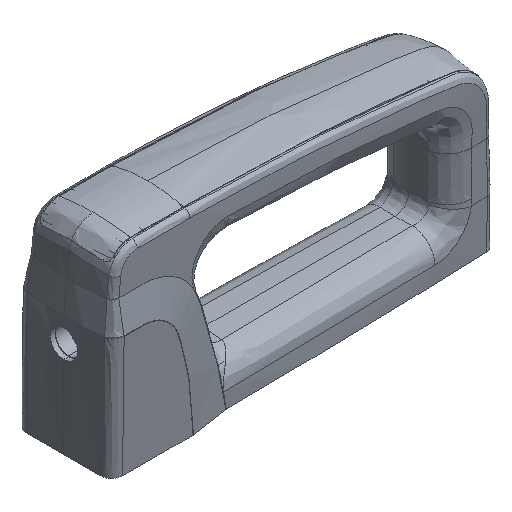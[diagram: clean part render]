
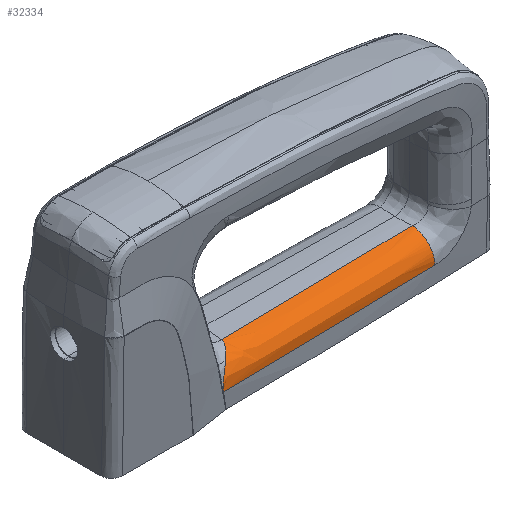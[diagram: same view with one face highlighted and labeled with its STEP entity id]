
A CAD part, isometric view. The second image highlights one B-rep face of the part: STEP entity #32334.
In plain terms, the highlighted free-form (B-spline) face has degree [3, 2] with [4, 3] control points.
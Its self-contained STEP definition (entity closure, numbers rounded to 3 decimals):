
#101 = CARTESIAN_POINT ( 'NONE',  ( 163.587, -7.886, -27.659 ) ) ;
#2140 = EDGE_CURVE ( 'NONE', #26106, #32699, #12736, .T. ) ;
#3367 = B_SPLINE_CURVE_WITH_KNOTS ( 'NONE', 3,
 ( #11305, #26061, #40851, #37210 ),
 .UNSPECIFIED., .F., .F.,
 ( 4, 4 ),
 ( 0., 0.09 ),
 .UNSPECIFIED. ) ;
#5367 = CARTESIAN_POINT ( 'NONE',  ( 103.628, -17.348, -28.371 ) ) ;
#5868 = CARTESIAN_POINT ( 'NONE',  ( 163.548, -6.646, -27.561 ) ) ;
#6098 = CARTESIAN_POINT ( 'NONE',  ( 133.749, -16.81, -37.574 ) ) ;
#6360 = CARTESIAN_POINT ( 'NONE',  ( 74.138, -17.47, -37.602 ) ) ;
#7169 = CARTESIAN_POINT ( 'NONE',  ( 163.811, -14.716, -32.728 ) ) ;
#7462 = CARTESIAN_POINT ( 'NONE',  ( 163.854, -15.857, -37.53 ) ) ;
#8624 = EDGE_CURVE ( 'NONE', #47681, #32699, #33017, .T. ) ;
#9652 = CARTESIAN_POINT ( 'NONE',  ( 82.495, -9.439, -27.731 ) ) ;
#10138 = CARTESIAN_POINT ( 'NONE',  ( 81.743, -10.591, -28.039 ) ) ;
#11305 = CARTESIAN_POINT ( 'NONE',  ( 74.138, -17.47, -37.602 ) ) ;
#12736 = B_SPLINE_CURVE_WITH_KNOTS ( 'NONE', 3,
 ( #24174, #43335, #35324, #10138, #9652, #38495 ),
 .UNSPECIFIED., .F., .F.,
 ( 4, 2, 4 ),
 ( 0., 0.442, 1. ),
 .UNSPECIFIED. ) ;
#13663 = CARTESIAN_POINT ( 'NONE',  ( 74.407, -17.083, -34.758 ) ) ;
#13738 = EDGE_CURVE ( 'NONE', #25432, #47681, #43786, .T. ) ;
#13904 = CARTESIAN_POINT ( 'NONE',  ( 77.826, -14.57, -30.545 ) ) ;
#17379 = CARTESIAN_POINT ( 'NONE',  ( 163.852, -15.857, -36.287 ) ) ;
#17709 = ORIENTED_EDGE ( 'NONE', *, *, #2140, .F. ) ;
#18043 = CARTESIAN_POINT ( 'NONE',  ( 163.548, -6.646, -27.561 ) ) ;
#20645 = CARTESIAN_POINT ( 'NONE',  ( 103.63, -17.348, -37.596 ) ) ;
#21001 = CARTESIAN_POINT ( 'NONE',  ( 163.732, -12.358, -29.829 ) ) ;
#21128 = CARTESIAN_POINT ( 'NONE',  ( 133.532, -7.618, -27.607 ) ) ;
#21964 = CARTESIAN_POINT ( 'NONE',  ( 163.788, -14.045, -31.656 ) ) ;
#24174 = CARTESIAN_POINT ( 'NONE',  ( 78.406, -14.062, -30.101 ) ) ;
#25258 = CARTESIAN_POINT ( 'NONE',  ( 74.064, -17.395, -36.179 ) ) ;
#25432 = VERTEX_POINT ( 'NONE', #7462 ) ;
#25504 = CARTESIAN_POINT ( 'NONE',  ( 74.012, -17.47, -36.909 ) ) ;
#25580 = CARTESIAN_POINT ( 'NONE',  ( 163.843, -15.622, -35.044 ) ) ;
#26061 = CARTESIAN_POINT ( 'NONE',  ( 104.049, -17.341, -37.596 ) ) ;
#26106 = VERTEX_POINT ( 'NONE', #32281 ) ;
#27426 = FACE_OUTER_BOUND ( 'NONE', #36566, .T. ) ;
#28150 = CARTESIAN_POINT ( 'NONE',  ( 163.548, -6.646, -27.561 ) ) ;
#29139 = CARTESIAN_POINT ( 'NONE',  ( 74.713, -16.849, -34.067 ) ) ;
#29171 = CARTESIAN_POINT ( 'NONE',  ( 82.688, -8.229, -27.633 ) ) ;
#29872 = CARTESIAN_POINT ( 'NONE',  ( 136.603, -7.519, -27.602 ) ) ;
#29916 = CARTESIAN_POINT ( 'NONE',  ( 163.548, -6.646, -27.561 ) ) ;
#32150 = CARTESIAN_POINT ( 'NONE',  ( 163.699, -11.342, -29.076 ) ) ;
#32281 = CARTESIAN_POINT ( 'NONE',  ( 78.406, -14.062, -30.101 ) ) ;
#32334 = ADVANCED_FACE ( 'NONE', ( #27426 ), #32888, .T. ) ;
#32699 = VERTEX_POINT ( 'NONE', #32818 ) ;
#32818 = CARTESIAN_POINT ( 'NONE',  ( 82.688, -8.229, -27.633 ) ) ;
#32819 = CARTESIAN_POINT ( 'NONE',  ( 109.647, -8.04, -27.624 ) ) ;
#32868 = CARTESIAN_POINT ( 'NONE',  ( 163.854, -15.857, -37.53 ) ) ;
#32888 =( BOUNDED_SURFACE ( )  B_SPLINE_SURFACE ( 3, 2, ( 
 ( #28150, #38807, #46826 ),
 ( #21128, #42939, #6098 ),
 ( #38576, #5367, #20645 ),
 ( #35172, #35418, #46103 ) ),
 .UNSPECIFIED., .F., .F., .T. ) 
 B_SPLINE_SURFACE_WITH_KNOTS ( ( 4, 4 ),
 ( 3, 3 ),
 ( 0.039, 0.129 ),
 ( 0., 1. ),
 .UNSPECIFIED. ) 
 GEOMETRIC_REPRESENTATION_ITEM ( )  RATIONAL_B_SPLINE_SURFACE ( (
 ( 1., 0.734, 1.),
 ( 1., 0.735, 1.),
 ( 1., 0.735, 1.),
 ( 1., 0.735, 1.) ) ) 
 REPRESENTATION_ITEM ( '' )  SURFACE ( )  );
#33017 = B_SPLINE_CURVE_WITH_KNOTS ( 'NONE', 3,
 ( #18043, #29872, #32819, #29171 ),
 .UNSPECIFIED., .F., .F.,
 ( 4, 4 ),
 ( 0., 0.081 ),
 .UNSPECIFIED. ) ;
#35172 = CARTESIAN_POINT ( 'NONE',  ( 73.47, -8.28, -27.635 ) ) ;
#35324 = CARTESIAN_POINT ( 'NONE',  ( 80.083, -12.54, -28.948 ) ) ;
#35418 = CARTESIAN_POINT ( 'NONE',  ( 73.508, -17.472, -28.38 ) ) ;
#36275 = EDGE_CURVE ( 'NONE', #47668, #25432, #3367, .T. ) ;
#36566 = EDGE_LOOP ( 'NONE', ( #39288, #45587, #39980, #17709, #37802 ) ) ;
#36901 = CARTESIAN_POINT ( 'NONE',  ( 75.543, -16.243, -32.76 ) ) ;
#37210 = CARTESIAN_POINT ( 'NONE',  ( 163.854, -15.857, -37.53 ) ) ;
#37802 = ORIENTED_EDGE ( 'NONE', *, *, #42063, .F. ) ;
#38495 = CARTESIAN_POINT ( 'NONE',  ( 82.688, -8.229, -27.633 ) ) ;
#38576 = CARTESIAN_POINT ( 'NONE',  ( 103.503, -8.154, -27.629 ) ) ;
#38807 = CARTESIAN_POINT ( 'NONE',  ( 163.84, -15.857, -28.287 ) ) ;
#39288 = ORIENTED_EDGE ( 'NONE', *, *, #36275, .T. ) ;
#39581 = CARTESIAN_POINT ( 'NONE',  ( 76.066, -15.868, -32.143 ) ) ;
#39980 = ORIENTED_EDGE ( 'NONE', *, *, #8624, .T. ) ;
#40295 = CARTESIAN_POINT ( 'NONE',  ( 77.208, -15.033, -31.041 ) ) ;
#40851 = CARTESIAN_POINT ( 'NONE',  ( 133.958, -16.803, -37.574 ) ) ;
#42063 = EDGE_CURVE ( 'NONE', #47668, #26106, #44658, .T. ) ;
#42939 = CARTESIAN_POINT ( 'NONE',  ( 133.768, -16.809, -28.35 ) ) ;
#43335 = CARTESIAN_POINT ( 'NONE',  ( 79.241, -13.34, -29.467 ) ) ;
#43786 = B_SPLINE_CURVE_WITH_KNOTS ( 'NONE', 3,
 ( #32868, #17379, #25580, #7169, #21964, #21001, #32150, #46944, #101, #29916 ),
 .UNSPECIFIED., .F., .F.,
 ( 4, 2, 2, 2, 4 ),
 ( 0., 0.25, 0.5, 0.75, 1. ),
 .UNSPECIFIED. ) ;
#44658 = B_SPLINE_CURVE_WITH_KNOTS ( 'NONE', 3,
 ( #47577, #25504, #25258, #13663, #29139, #36901, #39581, #40295, #13904, #47819 ),
 .UNSPECIFIED., .F., .F.,
 ( 4, 2, 2, 2, 4 ),
 ( 0., 0.25, 0.5, 0.75, 1. ),
 .UNSPECIFIED. ) ;
#45587 = ORIENTED_EDGE ( 'NONE', *, *, #13738, .T. ) ;
#46103 = CARTESIAN_POINT ( 'NONE',  ( 73.51, -17.472, -37.602 ) ) ;
#46826 = CARTESIAN_POINT ( 'NONE',  ( 163.854, -15.857, -37.53 ) ) ;
#46944 = CARTESIAN_POINT ( 'NONE',  ( 163.626, -9.106, -27.99 ) ) ;
#47577 = CARTESIAN_POINT ( 'NONE',  ( 74.138, -17.47, -37.602 ) ) ;
#47668 = VERTEX_POINT ( 'NONE', #6360 ) ;
#47681 = VERTEX_POINT ( 'NONE', #5868 ) ;
#47819 = CARTESIAN_POINT ( 'NONE',  ( 78.406, -14.062, -30.101 ) ) ;
